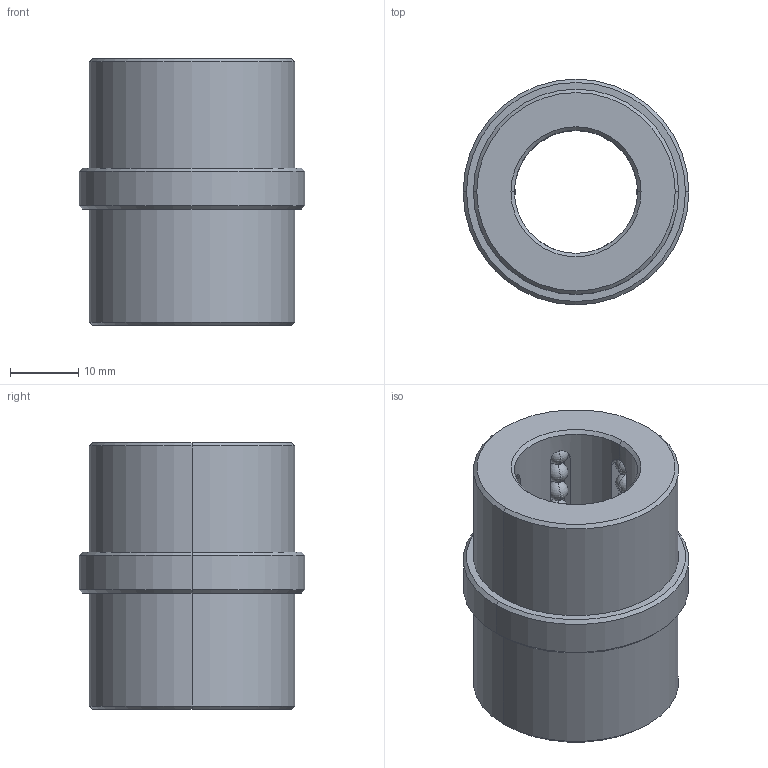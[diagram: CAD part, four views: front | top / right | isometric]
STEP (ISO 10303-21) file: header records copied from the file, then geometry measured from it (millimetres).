
FILE_DESCRIPTION((''),'2;1');
FILE_NAME('B844181722','2018-01-24T',('MANU'),(''),'PRO/ENGINEER BY PARAMETRIC TECHNOLOGY CORPORATION, 2012130','PRO/ENGINEER BY PARAMETRIC TECHNOLOGY CORPORATION, 2012130','');
FILE_SCHEMA(('CONFIG_CONTROL_DESIGN'));
Length unit declared in the file: millimetre
Products named in the file (1): B844181722
Bounding box: 33 x 33 x 39 mm (x, y, z)
Volume: 17673.9 mm3; surface area: 9892.6 mm2
Topology: 61 solids, 61 shells, 174 faces, 486 edges, 200 vertices
Faces by surface type: sphere 120, plane 22, cylinder 20, cone 12
Entity records: 4026 total; most frequent: CARTESIAN_POINT 822, DIRECTION 738, ORIENTED_EDGE 492, AXIS2_PLACEMENT_3D 334, EDGE_CURVE 246, VERTEX_POINT 200, EDGE_LOOP 182, FACE_OUTER_BOUND 174
